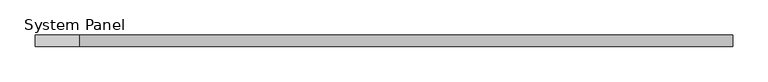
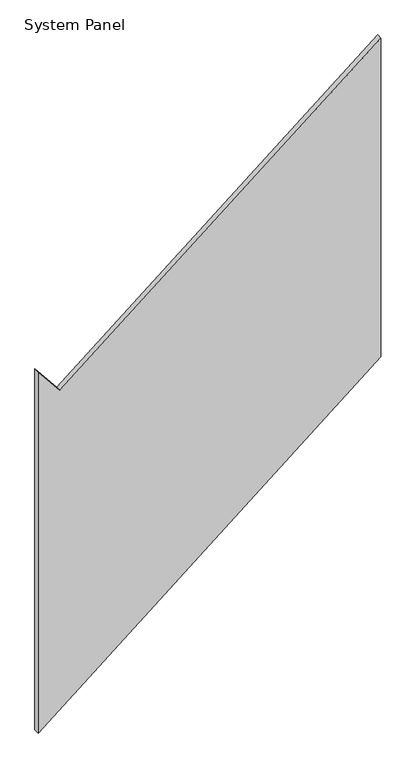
"""IFC4 building model written with IfcOpenShell, lengths in millimetres: plate geometry, System Panel : GUARDA-CORPO DE VIDRO TEMPERADO LAMINADO LISO 16 mm."""

from ifc_helpers import new_model, si_unit, frame, origin, place, context, project, spatial, polyline, outline, extrude, source, transform, mapped, element, save


def system_panel_3126d55a(model_context):
    return source(origin(), model_context, "Body", "SweptSolid", [
        extrude(outline(polyline([(0.0, -493.9588626), (800.0, 493.9588626), (1771.3240434, 493.9588626), (1022.2854039, -431.0268235), (1100.0, -493.9588626), (0.0, -493.9588626)])), frame((0.0, -8.0, 0.0), z_axis=(0.0, 1.0, 0.0), x_axis=(0.0, 0.0, 1.0)), (0.0, 0.0, 1.0), 16.0),
    ])


if __name__ == "__main__":
    model = new_model("IFC4")
    model_context = context("Model", 3, world=origin())
    ifc_project = project(units=[si_unit("LENGTHUNIT", "METRE", prefix="MILLI")], contexts=[model_context])
    site = spatial("IfcSite", under=ifc_project)
    building = spatial("IfcBuilding", under=site)
    placement = place(None, origin())
    system_panel_shape = system_panel_3126d55a(model_context)
    element("IfcPlate", 1, ObjectType="System Panel : GUARDA-CORPO DE VIDRO TEMPERADO LAMINADO LISO 16 mm", at=placement, inside=building, context=model_context, shape_type="MappedRepresentation", body=[
        mapped(system_panel_shape, transform((0.0, 0.0, 0.0), x_axis=(1.0, 0.0, 0.0), y_axis=(0.0, 1.0, 0.0), z_axis=(0.0, 0.0, 1.0))),
    ])
    save(model, "model.ifc")
